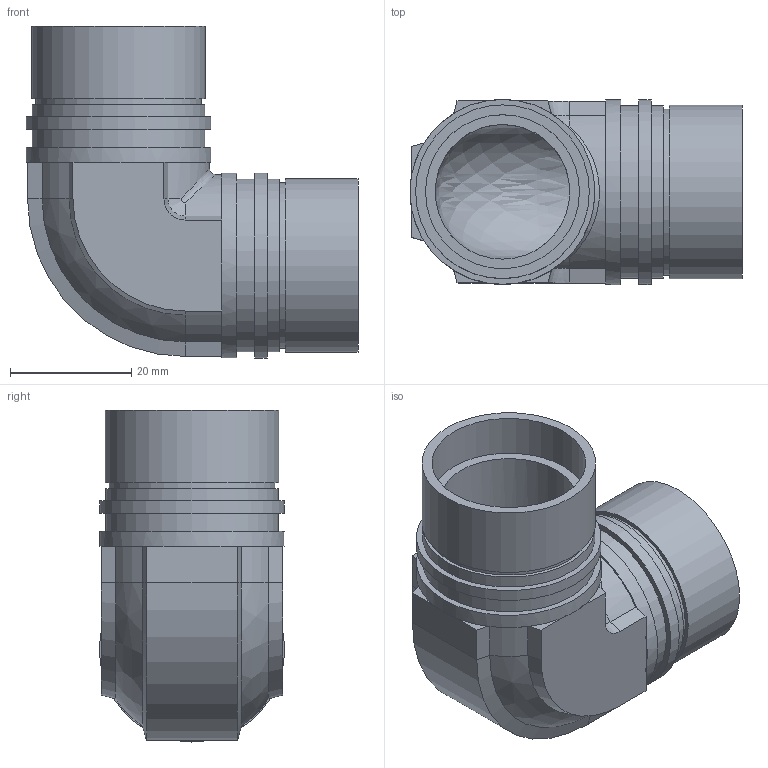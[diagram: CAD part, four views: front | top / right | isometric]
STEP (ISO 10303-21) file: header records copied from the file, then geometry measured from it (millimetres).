
FILE_DESCRIPTION( ( 'Unknown' ), '1' );
FILE_NAME( '//Sv02/01_社内情報/103_技術部/012_図面/図面/電子カタログ-3D/電子カタログ-3D元ファイル(par)/70_3D電子カタログ/03_UE/インチ/70-25.4UE-P.stp', 'Unknown', ( 'Unknown' ), ( 'Unknown' ), 'XStep 1.0', 'Unknown', ' ' );
FILE_SCHEMA( ( 'CONFIG_CONTROL_DESIGN' ) );
Length unit declared in the file: millimetre
Products named in the file (1): 1
Bounding box: 54.75 x 30.5 x 54.75 mm (x, y, z)
Volume: 20976.4 mm3; surface area: 13822.2 mm2
Topology: 1 solids, 1 shells, 89 faces, 187 edges, 110 vertices
Faces by surface type: plane 54, cylinder 23, bspline 6, cone 6
Full cylindrical faces by diameter (mm): 22.2 x2, 25.4 x2, 27.35 x2, 28.5 x4, 28.65 x2, 30.5 x4
Entity records: 2600 total; most frequent: CARTESIAN_POINT 715, DIRECTION 414, ORIENTED_EDGE 330, AXIS2_PLACEMENT_3D 167, EDGE_CURVE 165, EDGE_LOOP 119, VERTEX_POINT 106, FACE_OUTER_BOUND 105
